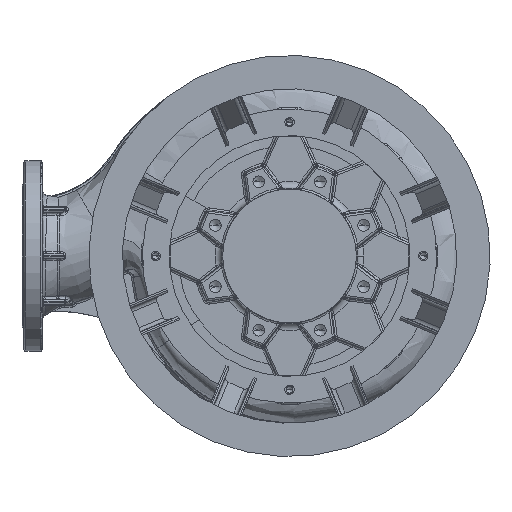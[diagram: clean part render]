
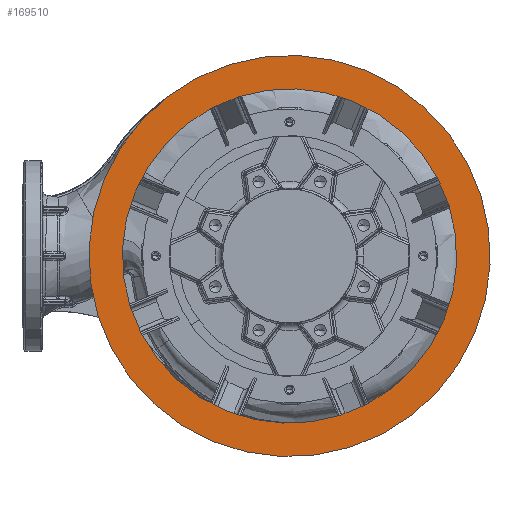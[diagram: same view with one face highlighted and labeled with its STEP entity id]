
A CAD part, front view. The second image highlights one B-rep face of the part: STEP entity #169510.
In plain terms, the highlighted planar face has unit normal (0, -1, 0).
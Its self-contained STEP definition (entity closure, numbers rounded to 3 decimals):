
#8805 = EDGE_CURVE ( 'NONE', #156930, #155219, #94775, .T. ) ;
#12850 = DIRECTION ( 'NONE',  ( 0.383, 0., 0.924 ) ) ;
#24578 = AXIS2_PLACEMENT_3D ( 'NONE', #198354, #105555, #12850 ) ;
#33223 = EDGE_LOOP ( 'NONE', ( #128857, #131039 ) ) ;
#34821 = DIRECTION ( 'NONE',  ( 0., 1., 0. ) ) ;
#36913 = DIRECTION ( 'NONE',  ( 0., 1., 0. ) ) ;
#40726 = CARTESIAN_POINT ( 'NONE',  ( 0., -653.5, 0. ) ) ;
#49438 = VERTEX_POINT ( 'NONE', #122935 ) ;
#52846 = CIRCLE ( 'NONE', #24578, 300. ) ;
#56232 = DIRECTION ( 'NONE',  ( 0.383, 0., 0.924 ) ) ;
#66328 = CIRCLE ( 'NONE', #92624, 250. ) ;
#69350 = EDGE_CURVE ( 'NONE', #195308, #49438, #195538, .T. ) ;
#72671 = DIRECTION ( 'NONE',  ( 0.383, 0., 0.924 ) ) ;
#72728 = DIRECTION ( 'NONE',  ( 0., 1., 0. ) ) ;
#72906 = CARTESIAN_POINT ( 'NONE',  ( 0., -653.5, 0. ) ) ;
#79379 = EDGE_LOOP ( 'NONE', ( #146220, #147641 ) ) ;
#79836 = FACE_BOUND ( 'NONE', #79379, .T. ) ;
#87429 = AXIS2_PLACEMENT_3D ( 'NONE', #40726, #149026, #56232 ) ;
#89518 = EDGE_CURVE ( 'NONE', #49438, #195308, #66328, .T. ) ;
#92624 = AXIS2_PLACEMENT_3D ( 'NONE', #129571, #36913, #145179 ) ;
#94775 = CIRCLE ( 'NONE', #156751, 300. ) ;
#105555 = DIRECTION ( 'NONE',  ( 0., 1., 0. ) ) ;
#120514 = CARTESIAN_POINT ( 'NONE',  ( -114.805, -653.5, -277.164 ) ) ;
#122935 = CARTESIAN_POINT ( 'NONE',  ( 95.671, -653.5, 230.97 ) ) ;
#127476 = CARTESIAN_POINT ( 'NONE',  ( 0., -653.5, 0. ) ) ;
#128857 = ORIENTED_EDGE ( 'NONE', *, *, #185716, .F. ) ;
#129571 = CARTESIAN_POINT ( 'NONE',  ( 0., -653.5, 0. ) ) ;
#131039 = ORIENTED_EDGE ( 'NONE', *, *, #8805, .F. ) ;
#135341 = CARTESIAN_POINT ( 'NONE',  ( -95.671, -653.5, -230.97 ) ) ;
#137922 = CARTESIAN_POINT ( 'NONE',  ( 114.805, -653.5, 277.164 ) ) ;
#143059 = DIRECTION ( 'NONE',  ( 0.383, 0., 0.924 ) ) ;
#145179 = DIRECTION ( 'NONE',  ( 0.383, 0., 0.924 ) ) ;
#146220 = ORIENTED_EDGE ( 'NONE', *, *, #69350, .T. ) ;
#147641 = ORIENTED_EDGE ( 'NONE', *, *, #89518, .T. ) ;
#149026 = DIRECTION ( 'NONE',  ( 0., 1., 0. ) ) ;
#155219 = VERTEX_POINT ( 'NONE', #120514 ) ;
#156751 = AXIS2_PLACEMENT_3D ( 'NONE', #72906, #72728, #72671 ) ;
#156930 = VERTEX_POINT ( 'NONE', #137922 ) ;
#157430 = FACE_OUTER_BOUND ( 'NONE', #33223, .T. ) ;
#169510 = ADVANCED_FACE ( 'NONE', ( #157430, #79836 ), #179520, .F. ) ;
#172319 = AXIS2_PLACEMENT_3D ( 'NONE', #127476, #34821, #143059 ) ;
#179520 = PLANE ( 'NONE',  #87429 ) ;
#185716 = EDGE_CURVE ( 'NONE', #155219, #156930, #52846, .T. ) ;
#195308 = VERTEX_POINT ( 'NONE', #135341 ) ;
#195538 = CIRCLE ( 'NONE', #172319, 250. ) ;
#198354 = CARTESIAN_POINT ( 'NONE',  ( 0., -653.5, 0. ) ) ;
